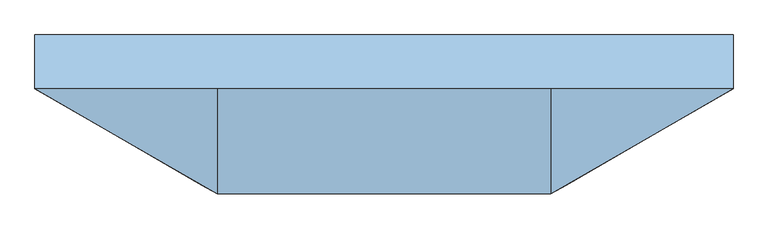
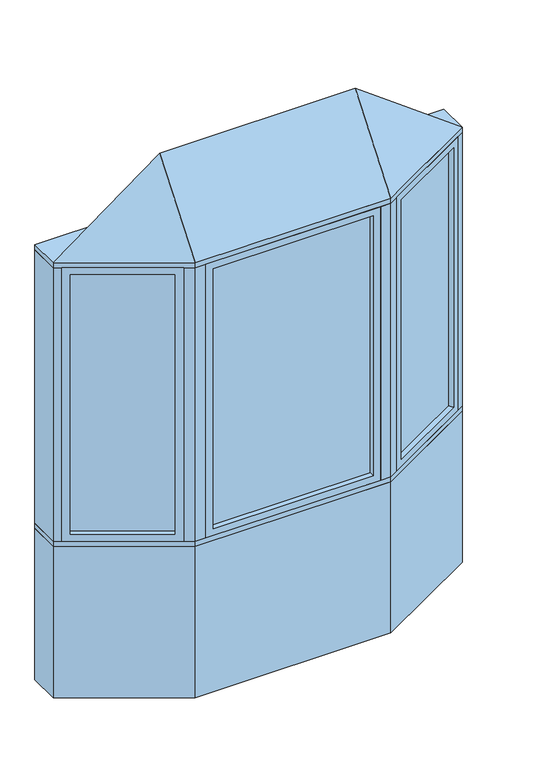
"""IFC4 building model written with IfcOpenShell, lengths in millimetres: window geometry, Pollard_Windows_Tudor Casement Bows and Bays : AML-BAY 30 AFR0514-10-500."""

import ifcopenshell
import ifcopenshell.guid

model = None  # the IFC model being written
_history = None  # IfcOwnerHistory: only IFC2X3 demands one
_inside = {}  # id of a spatial element -> (the spatial element, [elements in it])
_under = {}  # id of a project, library or spatial element -> (it, [spatial elements below it])
_declared = {}  # id of a project -> (the project, [libraries it declares])
_typed = {}  # id of a type object -> (the type object, [elements of that type])
_made_of = {}  # id of a material, layer set ... -> (it, [elements and type objects made of it])


def new_model(schema):
    """Start an empty IFC model of exactly this schema.

    Asked for "IFC4X3", IfcOpenShell would pick the latest addendum, in which some entities
    have other attributes; the version numbers below select the first issue.
    IFC2X3 requires an IfcOwnerHistory on every rooted entity: one is made here for all.
    """
    global model, _history
    if schema == "IFC4X3":
        model = ifcopenshell.file(schema_version=(4, 3, 0, 0))
    else:
        model = ifcopenshell.file(schema=schema)
    _inside.clear()
    _under.clear()
    _declared.clear()
    _typed.clear()
    _made_of.clear()
    _history = None
    if model.schema == "IFC2X3":
        org = make("IfcOrganization", Name="unknown")
        user = make(
            "IfcPersonAndOrganization",
            ThePerson=make("IfcPerson", FamilyName="unknown"),
            TheOrganization=org,
        )
        app = make(
            "IfcApplication",
            ApplicationDeveloper=org,
            Version="unknown",
            ApplicationFullName="unknown",
            ApplicationIdentifier="unknown",
        )
        _history = make(
            "IfcOwnerHistory",
            OwningUser=user,
            OwningApplication=app,
            ChangeAction="ADDED",
            CreationDate=0,
        )
    return model


def make(cls, **values):
    """One entity of the class cls with the attributes given. An attribute that is None is left unset."""
    return model.create_entity(
        cls, **{name: value for name, value in values.items() if value is not None}
    )


def rooted(cls, **values):
    """An entity with a GlobalId (a new one), such as an element, a storey or a relation."""
    return make(cls, GlobalId=ifcopenshell.guid.new(), OwnerHistory=_history, **values)


def si_unit(unit_type, name, prefix=None):
    """IfcSIUnit, for example si_unit("LENGTHUNIT", "METRE", prefix="MILLI")."""
    return make("IfcSIUnit", UnitType=unit_type, Prefix=prefix, Name=name)


def assignment(units):
    """IfcUnitAssignment: the units of a project."""
    return None if units is None else make("IfcUnitAssignment", Units=units)


def point(xyz):
    """IfcCartesianPoint."""
    return None if xyz is None else make("IfcCartesianPoint", Coordinates=xyz)


def direction(xyz):
    """IfcDirection."""
    return None if xyz is None else make("IfcDirection", DirectionRatios=xyz)


def frame(location, z_axis=None, x_axis=None):
    """IfcAxis2Placement3D, a coordinate frame: its origin and axes. An axis left out is left unset."""
    return make(
        "IfcAxis2Placement3D",
        Location=point(location),
        Axis=direction(z_axis),
        RefDirection=direction(x_axis),
    )


def origin():
    """The frame at (0, 0, 0) with its axes left unset."""
    return frame((0.0, 0.0, 0.0))


def origin_with_axes():
    """The frame at (0, 0, 0) with the z axis (0, 0, 1) and the x axis (1, 0, 0) written out."""
    return frame((0.0, 0.0, 0.0), z_axis=(0.0, 0.0, 1.0), x_axis=(1.0, 0.0, 0.0))


def place(relative_to, where):
    """IfcLocalPlacement: puts the frame where relative to a parent placement (None: the world)."""
    return make(
        "IfcLocalPlacement", PlacementRelTo=relative_to, RelativePlacement=where
    )


def context(
    kind, dimensions, precision=None, world=None, true_north=None, identifier=None
):
    """IfcGeometricRepresentationContext, for example the 3D "Model" context."""
    return make(
        "IfcGeometricRepresentationContext",
        ContextIdentifier=identifier,
        ContextType=kind,
        CoordinateSpaceDimension=dimensions,
        Precision=precision,
        WorldCoordinateSystem=world,
        TrueNorth=true_north,
    )


def project(units=None, contexts=None):
    """IfcProject with its units and contexts."""
    return rooted(
        "IfcProject",
        Name="project",
        RepresentationContexts=contexts,
        UnitsInContext=assignment(units),
    )


def spatial(cls, under=None, at=None, **own):
    """A site, building, storey or space (cls), placed at a placement, below another one or the project."""
    s = rooted(cls, ObjectPlacement=at, **own)
    if under is not None:
        _under.setdefault(under.id(), (under, []))[1].append(s)
    return s


def polyline(points):
    """IfcPolyline through the points."""
    return make("IfcPolyline", Points=[point(p) for p in points])


def outline(outer, holes=None, kind="AREA"):
    """IfcArbitraryClosedProfileDef: a profile drawn as a closed curve; with holes, ...WithVoids."""
    if holes is None:
        return make("IfcArbitraryClosedProfileDef", ProfileType=kind, OuterCurve=outer)
    return make(
        "IfcArbitraryProfileDefWithVoids",
        ProfileType=kind,
        OuterCurve=outer,
        InnerCurves=holes,
    )


def extrude(swept, where, along, depth):
    """IfcExtrudedAreaSolid: the profile swept, set in the frame where, extruded along a direction by depth."""
    return make(
        "IfcExtrudedAreaSolid",
        SweptArea=swept,
        Position=where,
        ExtrudedDirection=direction(along),
        Depth=depth,
    )


def faces_of(points, faces, orient=None, outer=None):
    """IfcFace entities. A face is a list of loops; a loop is a list of indices into points, from 0.

    orient and outer hold one flag for each loop. By default every Orientation is true, the
    first loop of a face is its IfcFaceOuterBound and the others are IfcFaceBound.
    """
    made = []
    for i, loops in enumerate(faces):
        bounds = []
        for j, loop in enumerate(loops):
            is_outer = j == 0 if outer is None else outer[i][j]
            bounds.append(
                make(
                    "IfcFaceOuterBound" if is_outer else "IfcFaceBound",
                    Bound=make("IfcPolyLoop", Polygon=[points[k] for k in loop]),
                    Orientation=True if orient is None else orient[i][j],
                )
            )
        made.append(make("IfcFace", Bounds=bounds))
    return made


def faceted_brep(points, faces, orient=None, outer=None, voids=None):
    """IfcFacetedBrep: a solid bounded by flat faces; with voids (closed shells), ...WithVoids."""
    shared = [point(p) for p in points]
    hull = make("IfcClosedShell", CfsFaces=faces_of(shared, faces, orient, outer))
    if voids is None:
        return make("IfcFacetedBrep", Outer=hull)
    return make(
        "IfcFacetedBrepWithVoids",
        Outer=hull,
        Voids=[
            make(cls, CfsFaces=faces_of(shared, fs, o, b)) for cls, fs, o, b in voids
        ],
    )


def shape(context_of_items, identifier, shape_type, items):
    """IfcShapeRepresentation: the items that make up one representation, for example the "Body"."""
    return make(
        "IfcShapeRepresentation",
        ContextOfItems=context_of_items,
        RepresentationIdentifier=identifier,
        RepresentationType=shape_type,
        Items=items,
    )


def source(mapping_origin, context_of_items, identifier, shape_type, items):
    """IfcRepresentationMap: a shape defined once, which mapped items show again and again."""
    return make(
        "IfcRepresentationMap",
        MappingOrigin=mapping_origin,
        MappedRepresentation=shape(context_of_items, identifier, shape_type, items),
    )


def transform(
    local_origin,
    x_axis=None,
    y_axis=None,
    z_axis=None,
    scale=None,
    scale2=None,
    scale3=None,
    uniform=True,
):
    """IfcCartesianTransformationOperator3D, or its non-uniform kind. x_axis, y_axis, z_axis: its Axis1, 2, 3."""
    if uniform:
        return make(
            "IfcCartesianTransformationOperator3D",
            Axis1=direction(x_axis),
            Axis2=direction(y_axis),
            LocalOrigin=point(local_origin),
            Scale=scale,
            Axis3=direction(z_axis),
        )
    return make(
        "IfcCartesianTransformationOperator3DnonUniform",
        Axis1=direction(x_axis),
        Axis2=direction(y_axis),
        LocalOrigin=point(local_origin),
        Scale=scale,
        Axis3=direction(z_axis),
        Scale2=scale2,
        Scale3=scale3,
    )


def mapped(mapping_source, mapping_target):
    """IfcMappedItem: shows the shape of a source again, moved by a transform."""
    return make(
        "IfcMappedItem", MappingSource=mapping_source, MappingTarget=mapping_target
    )


def made_of(thing, what):
    """Note that an element or type object is made of a material, layer set ...; save() writes the relation."""
    if what is not None:
        _made_of.setdefault(what.id(), (what, []))[1].append(thing)
    return thing


def element(
    cls,
    number,
    at=None,
    inside=None,
    cuts=None,
    type_object=None,
    material=None,
    context=None,
    identifier="Body",
    shape_type=None,
    held_by="IfcProductDefinitionShape",
    body=None,
    shapes=None,
    **own,
):
    """One element of the class cls, such as IfcWall. Its Tag is "e" and its number.

    at: its placement. inside: the storey or other place that contains it. cuts: it is an
    opening in that element (IfcRelVoidsElement). A single representation is given by context,
    identifier, shape_type and body (its items); several are given by shapes. held_by: the class
    of the entity that holds the representations. save() writes the other relations.
    """
    e = rooted(cls, Tag="e%d" % number, ObjectPlacement=at, **own)
    if body is not None:
        shapes = [shape(context, identifier, shape_type, body)]
    if shapes is not None:
        e.Representation = make(held_by, Representations=shapes)
    if inside is not None:
        _inside.setdefault(inside.id(), (inside, []))[1].append(e)
    if cuts is not None:
        rooted(
            "IfcRelVoidsElement", RelatingBuildingElement=cuts, RelatedOpeningElement=e
        )
    if type_object is not None:
        _typed.setdefault(type_object.id(), (type_object, []))[1].append(e)
    return made_of(e, material)


def aggregate(whole, parts):
    """IfcRelAggregates: a whole, such as a stair, and the parts it consists of."""
    return rooted("IfcRelAggregates", RelatingObject=whole, RelatedObjects=parts)


def save(model, path):
    """Write the relations noted so far, then the file.

    IfcRelAggregates (storeys below a building ...), IfcRelContainedInSpatialStructure (elements
    in a storey), IfcRelDefinesByType, IfcRelAssociatesMaterial and IfcRelDeclares: one each for
    every whole, place, type object, material and project.
    """
    for whole, parts in _under.values():
        aggregate(whole, parts)
    for where, things in _inside.values():
        rooted(
            "IfcRelContainedInSpatialStructure",
            RelatedElements=things,
            RelatingStructure=where,
        )
    for kind, things in _typed.values():
        rooted("IfcRelDefinesByType", RelatedObjects=things, RelatingType=kind)
    for what, things in _made_of.values():
        rooted("IfcRelAssociatesMaterial", RelatedObjects=things, RelatingMaterial=what)
    for by, libraries in _declared.values():
        rooted("IfcRelDeclares", RelatingContext=by, RelatedDefinitions=libraries)
    model.write(path)


def window_752aa877(model_context):
    return source(origin(), model_context, "Body", "SolidModel", [
        extrude(outline(polyline([(926.612102, -82.0482469), (523.7320119, -314.6511754), (521.1920119, -310.2517664), (924.072102, -77.6488379), (926.612102, -82.0482469)])), frame((0.0, 0.0, 823.1628), z_axis=(0.0, 0.0, 1.0), x_axis=(1.0, 0.0, 0.0)), (0.0, 0.0, 1.0), 1353.6704),
        faceted_brep([(915.6135794, -88.3982469, 835.8628), (928.3135794, -110.3952922, 835.8628), (928.3135794, -110.3952922, 2164.1332), (915.6135794, -88.3982469, 2164.1332), (924.072102, -77.6488379, 823.1628), (926.612102, -82.0482469, 823.1628), (926.612102, -82.0482469, 2176.8332), (924.072102, -77.6488379, 2176.8332), (900.3735794, -62.0017926, 835.8628), (913.0735794, -83.9988379, 835.8628), (913.0735794, -83.9988379, 2164.1332), (900.3735794, -62.0017926, 2164.1332), (959.3734073, -92.4628922, 799.998), (931.4334073, -44.0693926, 799.998), (931.4334073, -44.0693926, 2199.998), (959.3734073, -92.4628922, 2199.998), (547.4305346, -330.2982207, 2164.1332), (534.7305346, -308.3011754, 2164.1332), (523.7320119, -314.6511754, 2176.8332), (521.1920119, -310.2517664, 2176.8332), (532.1905346, -303.9017664, 2164.1332), (519.4905346, -281.9047211, 2164.1332), (488.4307067, -299.8371211, 2199.998), (516.3707067, -348.2306207, 2199.998), (547.4305346, -330.2982207, 835.8628), (534.7305346, -308.3011754, 835.8628), (523.7320119, -314.6511754, 823.1628), (521.1920119, -310.2517664, 823.1628), (532.1905346, -303.9017664, 835.8628), (519.4905346, -281.9047211, 835.8628), (488.4307067, -299.8371211, 799.998), (516.3707067, -348.2306207, 799.998)], [[[0, 1, 2, 3]], [[4, 5, 6, 7]], [[8, 9, 10, 11]], [[12, 13, 14, 15]], [[3, 2, 16, 17]], [[7, 6, 18, 19]], [[11, 10, 20, 21]], [[15, 14, 22, 23]], [[17, 16, 24, 25]], [[19, 18, 26, 27]], [[21, 20, 28, 29]], [[23, 22, 30, 31]], [[25, 24, 1, 0]], [[5, 26, 18, 6], [3, 17, 25, 0]], [[27, 26, 5, 4]], [[7, 19, 27, 4], [9, 28, 20, 10]], [[29, 28, 9, 8]], [[13, 30, 22, 14], [11, 21, 29, 8]], [[31, 30, 13, 12]], [[15, 23, 31, 12], [1, 24, 16, 2]]]),
        extrude(outline(polyline([(-523.7320119, -314.6511754), (-926.612102, -82.0482469), (-924.072102, -77.6488379), (-521.1920119, -310.2517664), (-523.7320119, -314.6511754)])), frame((0.0, 0.0, 823.1628), z_axis=(0.0, 0.0, 1.0), x_axis=(1.0, 0.0, 0.0)), (0.0, 0.0, 1.0), 1353.6704),
        faceted_brep([(-532.1905346, -303.9017664, 2164.1332), (-519.4905346, -281.9047211, 2164.1332), (-519.4905346, -281.9047211, 835.8628), (-532.1905346, -303.9017664, 835.8628), (-523.7320119, -314.6511754, 2176.8332), (-521.1920119, -310.2517664, 2176.8332), (-521.1920119, -310.2517664, 823.1628), (-523.7320119, -314.6511754, 823.1628), (-547.4305346, -330.2982207, 2164.1332), (-534.7305346, -308.3011754, 2164.1332), (-534.7305346, -308.3011754, 835.8628), (-547.4305346, -330.2982207, 835.8628), (-488.4307067, -299.8371211, 2199.998), (-516.3707067, -348.2306207, 2199.998), (-516.3707067, -348.2306207, 799.998), (-488.4307067, -299.8371211, 799.998), (-900.3735794, -62.0017926, 835.8628), (-913.0735794, -83.9988379, 835.8628), (-924.072102, -77.6488379, 823.1628), (-926.612102, -82.0482469, 823.1628), (-915.6135794, -88.3982469, 835.8628), (-928.3135794, -110.3952922, 835.8628), (-959.3734073, -92.4628922, 799.998), (-931.4334073, -44.0693926, 799.998), (-900.3735794, -62.0017926, 2164.1332), (-913.0735794, -83.9988379, 2164.1332), (-924.072102, -77.6488379, 2176.8332), (-926.612102, -82.0482469, 2176.8332), (-915.6135794, -88.3982469, 2164.1332), (-928.3135794, -110.3952922, 2164.1332), (-959.3734073, -92.4628922, 2199.998), (-931.4334073, -44.0693926, 2199.998)], [[[0, 1, 2, 3]], [[4, 5, 6, 7]], [[8, 9, 10, 11]], [[12, 13, 14, 15]], [[3, 2, 16, 17]], [[7, 6, 18, 19]], [[11, 10, 20, 21]], [[15, 14, 22, 23]], [[17, 16, 24, 25]], [[19, 18, 26, 27]], [[21, 20, 28, 29]], [[23, 22, 30, 31]], [[15, 23, 31, 12], [1, 24, 16, 2]], [[25, 24, 1, 0]], [[5, 26, 18, 6], [3, 17, 25, 0]], [[27, 26, 5, 4]], [[7, 19, 27, 4], [9, 28, 20, 10]], [[29, 28, 9, 8]], [[13, 30, 22, 14], [11, 21, 29, 8]], [[31, 30, 13, 12]]]),
        extrude(outline(polyline([(399.9046365, -347.8306207), (-399.9046365, -347.8306207), (-399.9046365, -342.7506207), (399.9046365, -342.7506207), (399.9046365, -347.8306207)])), frame((0.0, 0.0, 823.1628), z_axis=(0.0, 0.0, 1.0), x_axis=(1.0, 0.0, 0.0)), (0.0, 0.0, 1.0), 1353.6704),
        faceted_brep([(387.2046365, -347.8306207, 835.8628), (387.2046365, -373.2306207, 835.8628), (387.2046365, -373.2306207, 2164.1332), (387.2046365, -347.8306207, 2164.1332), (399.9046365, -342.7506207, 823.1628), (399.9046365, -347.8306207, 823.1628), (399.9046365, -347.8306207, 2176.8332), (399.9046365, -342.7506207, 2176.8332), (387.2046365, -317.3506207, 835.8628), (387.2046365, -342.7506207, 835.8628), (387.2046365, -342.7506207, 2164.1332), (387.2046365, -317.3506207, 2164.1332), (423.0694365, -373.2306207, 799.998), (423.0694365, -317.3506207, 799.998), (423.0694365, -317.3506207, 2199.998), (423.0694365, -373.2306207, 2199.998), (-387.2046365, -373.2306207, 2164.1332), (-387.2046365, -347.8306207, 2164.1332), (-399.9046365, -347.8306207, 2176.8332), (-399.9046365, -342.7506207, 2176.8332), (-387.2046365, -342.7506207, 2164.1332), (-387.2046365, -317.3506207, 2164.1332), (-423.0694365, -317.3506207, 2199.998), (-423.0694365, -373.2306207, 2199.998), (-387.2046365, -373.2306207, 835.8628), (-387.2046365, -347.8306207, 835.8628), (-399.9046365, -347.8306207, 823.1628), (-399.9046365, -342.7506207, 823.1628), (-387.2046365, -342.7506207, 835.8628), (-387.2046365, -317.3506207, 835.8628), (-423.0694365, -317.3506207, 799.998), (-423.0694365, -373.2306207, 799.998)], [[[0, 1, 2, 3]], [[4, 5, 6, 7]], [[8, 9, 10, 11]], [[12, 13, 14, 15]], [[3, 2, 16, 17]], [[7, 6, 18, 19]], [[11, 10, 20, 21]], [[15, 14, 22, 23]], [[17, 16, 24, 25]], [[19, 18, 26, 27]], [[21, 20, 28, 29]], [[23, 22, 30, 31]], [[15, 23, 31, 12], [1, 24, 16, 2]], [[25, 24, 1, 0]], [[5, 26, 18, 6], [3, 17, 25, 0]], [[27, 26, 5, 4]], [[7, 19, 27, 4], [9, 28, 20, 10]], [[29, 28, 9, 8]], [[13, 30, 22, 14], [11, 21, 29, 8]], [[31, 30, 13, 12]]]),
        faceted_brep([(990.0, -74.7806207, 2225.398), (473.0694365, -373.2306207, 2225.398), (-473.0694365, -373.2306207, 2225.398), (-990.0, -74.7806207, 2225.398), (-473.0694365, -74.7806207, 2606.398), (473.0694365, -74.7806207, 2606.398)], [[[0, 1, 2, 3]], [[3, 2, 4]], [[2, 1, 5, 4]], [[1, 0, 5]], [[0, 3, 4, 5]]]),
        extrude(outline(polyline([(-990.0, 77.6193793), (990.0, 77.6193793), (990.0, -74.7806207), (473.0694365, -373.2306207), (-473.0694365, -373.2306207), (-990.0, -74.7806207), (-990.0, 77.6193793)])), frame((0.0, 0.0, 2199.998), z_axis=(0.0, 0.0, 1.0), x_axis=(1.0, 0.0, 0.0)), (0.0, 0.0, 1.0), 25.4),
        extrude(outline(polyline([(-990.0, -74.7806207), (-990.0, 77.6193793), (-949.1645431, 77.6193793), (-949.1645431, -74.7806207), (-959.3734073, -92.4628922), (-990.0, -74.7806207)])), frame((0.0, 0.0, 799.998), z_axis=(0.0, 0.0, 1.0), x_axis=(1.0, 0.0, 0.0)), (0.0, 0.0, 1.0), 1400.0),
        extrude(outline(polyline([(990.0, 77.6193793), (990.0, -74.7806207), (959.3734073, -92.4628922), (949.1645431, -74.7806207), (949.1645431, 77.6193793), (990.0, 77.6193793)])), frame((0.0, 0.0, 799.998), z_axis=(0.0, 0.0, 1.0), x_axis=(1.0, 0.0, 0.0)), (0.0, 0.0, 1.0), 1400.0),
        extrude(outline(polyline([(473.0694365, -373.2306207), (423.0694365, -373.2306207), (423.0694365, -323.2306207), (459.6719769, -323.2306207), (491.3707067, -304.9293505), (516.3707067, -348.2306207), (473.0694365, -373.2306207)])), frame((0.0, 0.0, 799.998), z_axis=(0.0, 0.0, 1.0), x_axis=(1.0, 0.0, 0.0)), (0.0, 0.0, 1.0), 1400.0),
        extrude(outline(polyline([(-473.0694365, -373.2306207), (-516.3707067, -348.2306207), (-491.3707067, -304.9293505), (-459.6719769, -323.2306207), (-423.0694365, -323.2306207), (-423.0694365, -373.2306207), (-473.0694365, -373.2306207)])), frame((0.0, 0.0, 799.998), z_axis=(0.0, 0.0, 1.0), x_axis=(1.0, 0.0, 0.0)), (0.0, 0.0, 1.0), 1400.0),
        extrude(outline(polyline([(-473.0694365, -373.2306207), (-990.0, -74.7806207), (-990.0, 77.6193793), (-949.1645431, 77.6193793), (-432.2339796, -220.8306207), (432.2339796, -220.8306207), (949.1645431, 77.6193793), (990.0, 77.6193793), (990.0, -74.7806207), (473.0694365, -373.2306207), (-473.0694365, -373.2306207)])), frame((0.0, 0.0, 774.598), z_axis=(0.0, 0.0, 1.0), x_axis=(1.0, 0.0, 0.0)), (0.0, 0.0, 1.0), 25.4),
        extrude(outline(polyline([(-990.0, -74.7806207), (-990.0, 77.6193793), (-949.1645431, 77.6193793), (-432.2339796, -220.8306207), (432.2339796, -220.8306207), (949.1645431, 77.6193793), (990.0, 77.6193793), (990.0, -74.7806207), (473.0694365, -373.2306207), (-473.0694365, -373.2306207), (-990.0, -74.7806207)])), origin_with_axes(), (0.0, 0.0, 1.0), 774.598),
    ])


if __name__ == "__main__":
    model = new_model("IFC4")
    model_context = context("Model", 3, world=origin())
    ifc_project = project(units=[si_unit("LENGTHUNIT", "METRE", prefix="MILLI")], contexts=[model_context])
    site = spatial("IfcSite", under=ifc_project)
    building = spatial("IfcBuilding", under=site)
    placement = place(None, origin())
    window_shape = window_752aa877(model_context)
    element("IfcWindow", 1, ObjectType="Pollard_Windows_Tudor Casement Bows and Bays : AML-BAY 30 AFR0514-10-500", at=placement, inside=building, context=model_context, shape_type="MappedRepresentation", body=[
        mapped(window_shape, transform((0.0, 0.0, 0.0), x_axis=(1.0, 0.0, 0.0), y_axis=(0.0, 1.0, 0.0), z_axis=(0.0, 0.0, 1.0))),
    ])
    save(model, "model.ifc")
